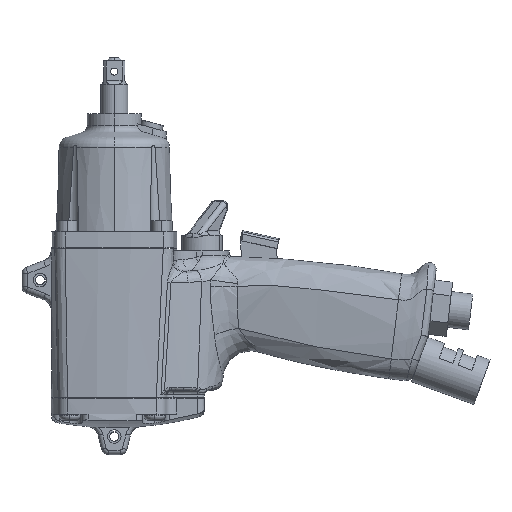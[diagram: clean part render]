
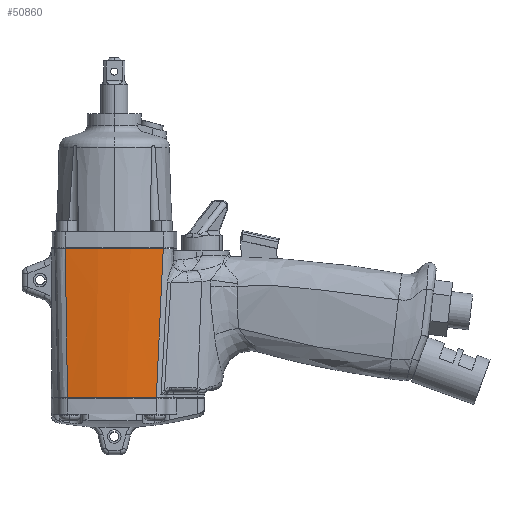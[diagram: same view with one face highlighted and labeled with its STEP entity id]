
A CAD part, left-side view. The second image highlights one B-rep face of the part: STEP entity #50860.
In plain terms, the highlighted free-form (B-spline) face has degree [3, 3] with [4, 8] control points.
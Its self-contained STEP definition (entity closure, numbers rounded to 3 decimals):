
#2909 = DIRECTION ( 'NONE',  ( 0.003, 0.047, -0.999 ) ) ;
#2910 = VECTOR ( 'NONE', #2909, 1000. ) ;
#2911 = CARTESIAN_POINT ( 'NONE',  ( -26.326, -20.223, -33. ) ) ;
#2912 = LINE ( 'NONE', #2911, #2910 ) ;
#2987 = CARTESIAN_POINT ( 'NONE',  ( -26.412, -21.768, 0. ) ) ;
#3448 = DIRECTION ( 'NONE',  ( 1., 0., 0. ) ) ;
#3449 = DIRECTION ( 'NONE',  ( 0., 0., 1. ) ) ;
#3450 = CARTESIAN_POINT ( 'NONE',  ( 122., 0., 0. ) ) ;
#3451 = AXIS2_PLACEMENT_3D ( 'NONE', #3450, #3449, #3448 ) ;
#3452 = CIRCLE ( 'NONE', #3451, 150. ) ;
#3453 = CARTESIAN_POINT ( 'NONE',  ( -26.412, 21.768, 0. ) ) ;
#3526 = FACE_OUTER_BOUND ( 'NONE', #50664, .T. ) ;
#3527 = DIRECTION ( 'NONE',  ( 0.009, -0.015, -1. ) ) ;
#3528 = VECTOR ( 'NONE', #3527, 1000. ) ;
#3529 = CARTESIAN_POINT ( 'NONE',  ( -26.114, 21.277, -33. ) ) ;
#3530 = LINE ( 'NONE', #3529, #3528 ) ;
#3540 = CARTESIAN_POINT ( 'NONE',  ( -28.648, -6.383, -38.362 ) ) ;
#3541 = CARTESIAN_POINT ( 'NONE',  ( -28.605, -6.759, -23.719 ) ) ;
#3542 = CARTESIAN_POINT ( 'NONE',  ( -28.564, -7.109, -9.654 ) ) ;
#3543 = CARTESIAN_POINT ( 'NONE',  ( -28.543, -7.241, -3.216 ) ) ;
#3544 = CARTESIAN_POINT ( 'NONE',  ( -28.533, -7.308, 0. ) ) ;
#3546 = CARTESIAN_POINT ( 'NONE',  ( -26.24, -18.677, -66. ) ) ;
#3547 = CARTESIAN_POINT ( 'NONE',  ( -26.25, -18.849, -62.333 ) ) ;
#3548 = CARTESIAN_POINT ( 'NONE',  ( -26.269, -19.192, -55. ) ) ;
#3549 = CARTESIAN_POINT ( 'NONE',  ( -26.307, -19.879, -40.333 ) ) ;
#3550 = CARTESIAN_POINT ( 'NONE',  ( -26.345, -20.566, -25.667 ) ) ;
#3551 = CARTESIAN_POINT ( 'NONE',  ( -26.383, -21.253, -11. ) ) ;
#3552 = CARTESIAN_POINT ( 'NONE',  ( -26.403, -21.597, -3.667 ) ) ;
#3553 = CARTESIAN_POINT ( 'NONE',  ( -26.412, -21.768, 0. ) ) ;
#3556 =( BOUNDED_SURFACE ( )  B_SPLINE_SURFACE ( 3, 3, ( 
 ( #3553, #3552, #3551, #3550, #3549, #3548, #3547, #3546 ),
 ( #3544, #3543, #3542, #3541, #3540, #3585, #3584, #3583 ),
 ( #3582, #3581, #3580, #3579, #3578, #3577, #3576, #3575 ),
 ( #3573, #3572, #3571, #3570, #3569, #3568, #3567, #3566 ) ),
 .UNSPECIFIED., .F., .F., .F. ) 
 B_SPLINE_SURFACE_WITH_KNOTS ( ( 4, 4 ),
 ( 4, 1, 1, 1, 1, 4 ),
 ( 0.625, 0.75 ),
 ( 0., 0.167, 0.333, 0.667, 0.833, 1. ),
 .UNSPECIFIED. ) 
 GEOMETRIC_REPRESENTATION_ITEM ( )  RATIONAL_B_SPLINE_SURFACE ( (
 ( 1., 1., 1., 1., 1., 1., 1., 1.),
 ( 0.993, 0.993, 0.992, 0.99, 0.99, 0.987, 0.987, 0.987),
 ( 0.993, 0.993, 0.992, 0.99, 0.99, 0.987, 0.987, 0.987),
 ( 1., 1., 1., 1., 1., 1., 1., 1.) ) ) 
 REPRESENTATION_ITEM ( '' )  SURFACE ( )  );
#3566 = CARTESIAN_POINT ( 'NONE',  ( -25.816, 20.785, -66. ) ) ;
#3567 = CARTESIAN_POINT ( 'NONE',  ( -25.849, 20.84, -62.333 ) ) ;
#3568 = CARTESIAN_POINT ( 'NONE',  ( -25.915, 20.949, -55. ) ) ;
#3569 = CARTESIAN_POINT ( 'NONE',  ( -26.048, 21.168, -40.333 ) ) ;
#3570 = CARTESIAN_POINT ( 'NONE',  ( -26.18, 21.386, -25.667 ) ) ;
#3571 = CARTESIAN_POINT ( 'NONE',  ( -26.313, 21.605, -11. ) ) ;
#3572 = CARTESIAN_POINT ( 'NONE',  ( -26.379, 21.714, -3.667 ) ) ;
#3573 = CARTESIAN_POINT ( 'NONE',  ( -26.412, 21.768, 0. ) ) ;
#3575 = CARTESIAN_POINT ( 'NONE',  ( -28.587, 7.747, -66. ) ) ;
#3576 = CARTESIAN_POINT ( 'NONE',  ( -28.581, 7.757, -61.852 ) ) ;
#3577 = CARTESIAN_POINT ( 'NONE',  ( -28.569, 7.777, -53.562 ) ) ;
#3578 = CARTESIAN_POINT ( 'NONE',  ( -28.558, 7.712, -38.292 ) ) ;
#3579 = CARTESIAN_POINT ( 'NONE',  ( -28.548, 7.607, -23.652 ) ) ;
#3580 = CARTESIAN_POINT ( 'NONE',  ( -28.54, 7.474, -9.605 ) ) ;
#3581 = CARTESIAN_POINT ( 'NONE',  ( -28.536, 7.363, -3.2 ) ) ;
#3582 = CARTESIAN_POINT ( 'NONE',  ( -28.533, 7.308, 0. ) ) ;
#3583 = CARTESIAN_POINT ( 'NONE',  ( -28.73, -5.582, -66. ) ) ;
#3584 = CARTESIAN_POINT ( 'NONE',  ( -28.717, -5.711, -61.87 ) ) ;
#3585 = CARTESIAN_POINT ( 'NONE',  ( -28.692, -5.968, -53.618 ) ) ;
#40944 = ORIENTED_EDGE ( 'NONE', *, *, #50728, .F. ) ;
#47686 = VERTEX_POINT ( 'NONE', #90952 ) ;
#47692 = EDGE_CURVE ( 'NONE', #47696, #47686, #90951, .T. ) ;
#47696 = VERTEX_POINT ( 'NONE', #90946 ) ;
#50410 = EDGE_CURVE ( 'NONE', #50459, #47686, #2912, .T. ) ;
#50459 = VERTEX_POINT ( 'NONE', #2987 ) ;
#50664 = EDGE_LOOP ( 'NONE', ( #40944, #50790, #50793, #50795 ) ) ;
#50724 = VERTEX_POINT ( 'NONE', #3453 ) ;
#50728 = EDGE_CURVE ( 'NONE', #50724, #50459, #3452, .T. ) ;
#50790 = ORIENTED_EDGE ( 'NONE', *, *, #50856, .T. ) ;
#50793 = ORIENTED_EDGE ( 'NONE', *, *, #47692, .T. ) ;
#50795 = ORIENTED_EDGE ( 'NONE', *, *, #50410, .F. ) ;
#50856 = EDGE_CURVE ( 'NONE', #50724, #47696, #3530, .T. ) ;
#50860 = ADVANCED_FACE ( 'NONE', ( #3526 ), #3556, .T. ) ;
#90946 = CARTESIAN_POINT ( 'NONE',  ( -25.816, 20.785, -66. ) ) ;
#90947 = DIRECTION ( 'NONE',  ( 1., 0., 0. ) ) ;
#90948 = DIRECTION ( 'NONE',  ( 0., 0., 1. ) ) ;
#90949 = CARTESIAN_POINT ( 'NONE',  ( 72., 0., -66. ) ) ;
#90950 = AXIS2_PLACEMENT_3D ( 'NONE', #90949, #90948, #90947 ) ;
#90951 = CIRCLE ( 'NONE', #90950, 100. ) ;
#90952 = CARTESIAN_POINT ( 'NONE',  ( -26.24, -18.677, -66. ) ) ;
